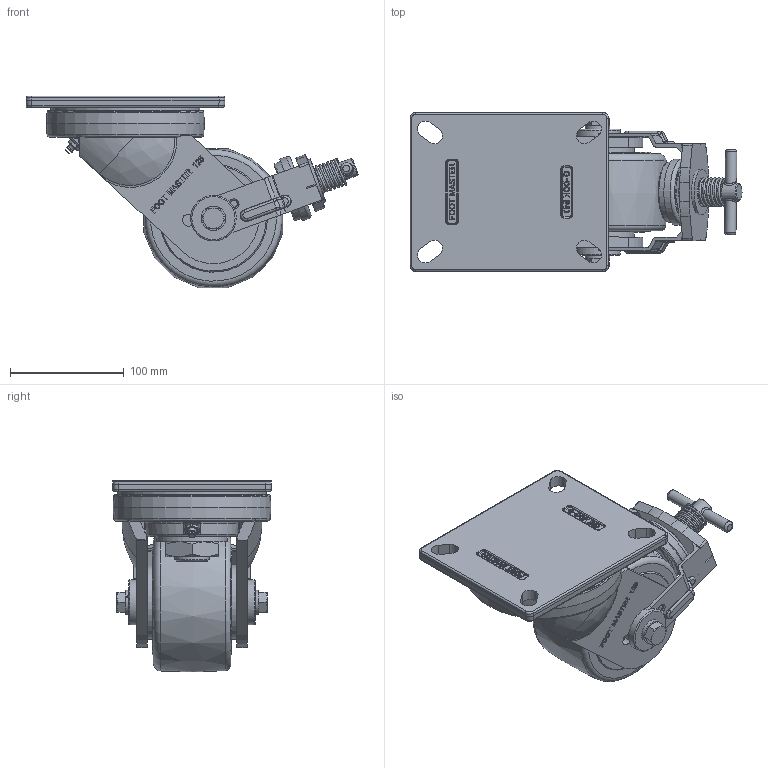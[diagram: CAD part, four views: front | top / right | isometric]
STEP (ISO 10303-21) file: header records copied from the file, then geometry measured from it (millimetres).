
FILE_DESCRIPTION(/* description */ (''),/* implementation_level */ '2;1');
FILE_NAME(/* name */ 'Y:\1.기술연구소\2.연구개발 진행중\133.고하중캐스터 브레이크 타입 변경건_2025.11.03\1.도면\4.홈페이지용 도면\01. 3D\GXT-125 SERIES\GXT-125-STEP\GXT-125-BSF-HUD.stp',/* time_stamp */ '2026-07-22T10:42:01+09:00',/* author */ ('장용하'),/* organization */ (''),/* preprocessor_version */ 'ST-DEVELOPER v18.1',/* originating_system */ 'Autodesk Inventor 2021',/* authorisation */ '');
FILE_SCHEMA (('CONFIG_CONTROL_DESIGN'));
Products named in the file (1): GXT-125-BSF-HUD
Bounding box: 292.28 x 140 x 168.79 mm (x, y, z)
Volume: 1909793.4 mm3; surface area: 203828.7 mm2
Topology: 1 solids, 1 shells, 1726 faces, 4645 edges, 3040 vertices
Faces by surface type: plane 814, bspline 615, cylinder 199, torus 53, cone 41, sphere 4
Full cylindrical faces by diameter (mm): 10 x2, 12 x2, 13 x2, 16 x1, 20 x1, 30 x1, 31.606 x1, 37.448 x2, 40 x3, 54 x2, 58 x1, 62.5 x1, 65 x2, 131.086 x1
Entity records: 59609 total; most frequent: CARTESIAN_POINT 20063, ORIENTED_EDGE 9292, DIRECTION 6295, EDGE_CURVE 4646, VERTEX_POINT 3042, LINE 2643, VECTOR 2643, EDGE_LOOP 1874
